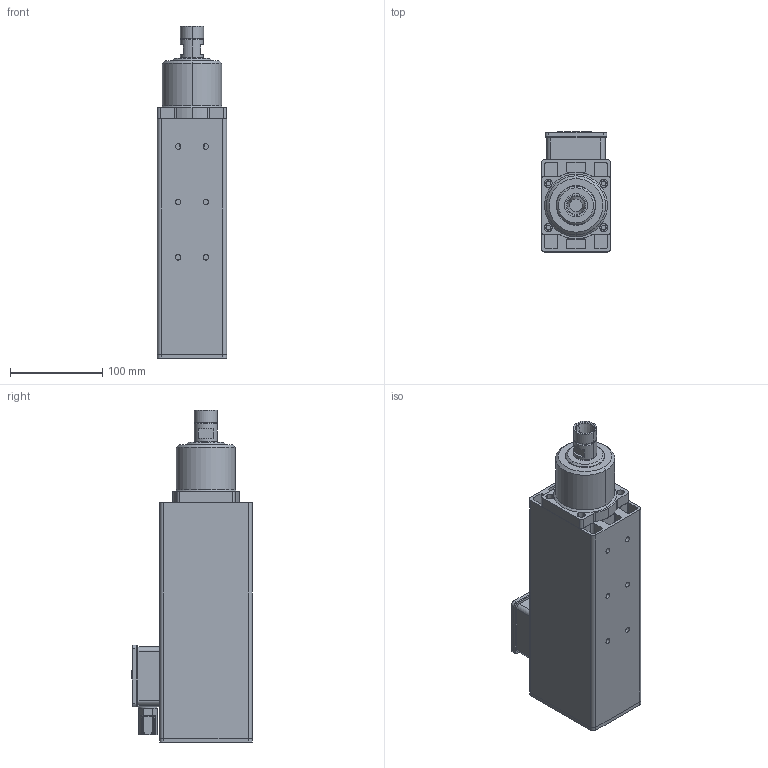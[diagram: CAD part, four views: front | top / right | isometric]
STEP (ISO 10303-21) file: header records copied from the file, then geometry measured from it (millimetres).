
FILE_DESCRIPTION (( 'STEP AP203' ), '1' );
FILE_NAME ('ARFM.2K-L ÇÝFT BÝLYALI ER20.STEP', '2020-06-26T08:26:30', ( '' ), ( '' ), 'SwSTEP 2.0', 'SolidWorks 2014', '' );
FILE_SCHEMA (( 'CONFIG_CONTROL_DESIGN' ));
Length unit declared in the file: millimetre
Products named in the file (10): pg 9 týrnaklý; Arfm.2k-l gövde; arfm.2y rotor mili ER 20; klemens kutusu; Klemens Kutusu; Arfm.2k Toz Kapak; ARFM.2K-L  ÇÝFT BÝLYALI ER20; klemens kutusu kapaðý; Arfm.2k Ön Kapak Çift Bilyalý; Arfm.2k Hava Kapak
Assembly tree (9 placements, depth 3):
  ARFM.2K-L  ÇÝFT BÝLYALI ER20
    Arfm.2k-l gövde
    Arfm.2k Toz Kapak
    Arfm.2k Hava Kapak
    Klemens Kutusu
      klemens kutusu
      klemens kutusu kapaðý
      pg 9 týrnaklý
    Arfm.2k Ön Kapak Çift Bilyalý
    arfm.2y rotor mili ER 20
Bounding box: 75 x 130 x 359.5 mm (x, y, z)
Volume: 965764.2 mm3; surface area: 335046 mm2
Topology: 8 solids, 8 shells, 476 faces, 1254 edges, 828 vertices
Faces by surface type: plane 232, cylinder 223, cone 10, torus 6, bspline 5
Entity records: 16550 total; most frequent: CARTESIAN_POINT 3158, DIRECTION 2654, ORIENTED_EDGE 2508, EDGE_CURVE 1254, AXIS2_PLACEMENT_3D 956, VERTEX_POINT 828, VECTOR 742, LINE 742
